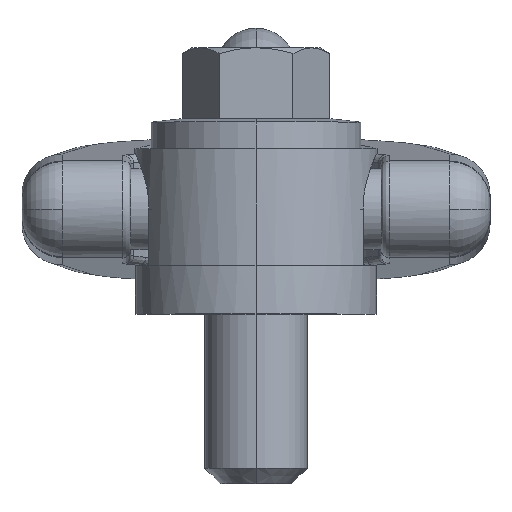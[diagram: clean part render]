
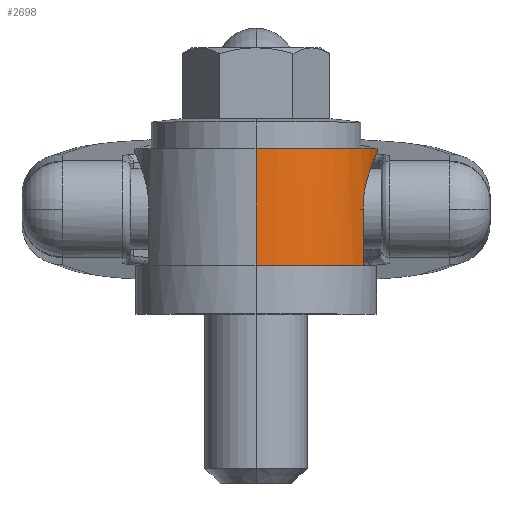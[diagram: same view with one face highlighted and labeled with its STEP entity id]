
A CAD part, top view. The second image highlights one B-rep face of the part: STEP entity #2698.
In plain terms, the highlighted cylindrical face has radius 15 mm (diameter 30 mm), a partial arc.
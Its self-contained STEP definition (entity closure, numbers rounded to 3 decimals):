
#2694 = ORIENTED_EDGE ( 'NONE', *, *, #2695, .F. ) ;
#2695 = EDGE_CURVE ( 'NONE', #2710, #2696, #4830, .T. ) ;
#2696 = VERTEX_POINT ( 'NONE', #4826 ) ;
#2697 = EDGE_LOOP ( 'NONE', ( #2694, #5514, #2759, #2734, #2722, #2728, #2720, #2719 ) ) ;
#2698 = ADVANCED_FACE ( 'NONE', ( #4825 ), #4824, .T. ) ;
#2710 = VERTEX_POINT ( 'NONE', #4859 ) ;
#2719 = ORIENTED_EDGE ( 'NONE', *, *, #2752, .F. ) ;
#2720 = ORIENTED_EDGE ( 'NONE', *, *, #2761, .F. ) ;
#2721 = VERTEX_POINT ( 'NONE', #4852 ) ;
#2722 = ORIENTED_EDGE ( 'NONE', *, *, #2730, .T. ) ;
#2723 = EDGE_CURVE ( 'NONE', #2721, #2727, #4851, .T. ) ;
#2724 = VERTEX_POINT ( 'NONE', #4847 ) ;
#2726 = VERTEX_POINT ( 'NONE', #4841 ) ;
#2727 = VERTEX_POINT ( 'NONE', #4840 ) ;
#2728 = ORIENTED_EDGE ( 'NONE', *, *, #2723, .T. ) ;
#2730 = EDGE_CURVE ( 'NONE', #2726, #2721, #4839, .T. ) ;
#2734 = ORIENTED_EDGE ( 'NONE', *, *, #2736, .T. ) ;
#2736 = EDGE_CURVE ( 'NONE', #2737, #2726, #4943, .T. ) ;
#2737 = VERTEX_POINT ( 'NONE', #4939 ) ;
#2749 = VERTEX_POINT ( 'NONE', #4933 ) ;
#2751 = EDGE_CURVE ( 'NONE', #2710, #2749, #4931, .T. ) ;
#2752 = EDGE_CURVE ( 'NONE', #2696, #2724, #4927, .T. ) ;
#2755 = EDGE_CURVE ( 'NONE', #2737, #2749, #4967, .T. ) ;
#2759 = ORIENTED_EDGE ( 'NONE', *, *, #2755, .F. ) ;
#2761 = EDGE_CURVE ( 'NONE', #2724, #2727, #4952, .T. ) ;
#4820 = DIRECTION ( 'NONE',  ( 0., 0., -1. ) ) ;
#4821 = DIRECTION ( 'NONE',  ( 0., -1., 0. ) ) ;
#4822 = CARTESIAN_POINT ( 'NONE',  ( 0., 33., 0. ) ) ;
#4823 = AXIS2_PLACEMENT_3D ( 'NONE', #4822, #4821, #4820 ) ;
#4824 = CYLINDRICAL_SURFACE ( 'NONE', #4823, 15. ) ;
#4825 = FACE_OUTER_BOUND ( 'NONE', #2697, .T. ) ;
#4826 = CARTESIAN_POINT ( 'NONE',  ( 0., 20.5, -15. ) ) ;
#4827 = DIRECTION ( 'NONE',  ( 0., 0., 1. ) ) ;
#4828 = DIRECTION ( 'NONE',  ( 0., 1., 0. ) ) ;
#4829 = AXIS2_PLACEMENT_3D ( 'NONE', #4836, #4828, #4827 ) ;
#4830 = CIRCLE ( 'NONE', #4829, 15. ) ;
#4836 = CARTESIAN_POINT ( 'NONE',  ( 0., 20.5, 0. ) ) ;
#4839 = B_SPLINE_CURVE_WITH_KNOTS ( 'NONE', 3,
 ( #4913, #4912, #4911, #4910, #4909, #4908, #4907, #4906, #4905, #4904, #4903, #4902, #4901, #4900, #4899, #4898, #4897, #4896, #4895, #4894, #4893, #4892, #4891, #4890, #4889, #4888, #4887, #4886, #4885, #4884, #4883, #4882, #4881, #4880, #4879, #4878, #4877, #4876, #4875, #4874, #4873, #4872, #4871, #4870, #4869, #4868 ),
 .UNSPECIFIED., .F., .F.,
 ( 4, 2, 2, 2, 2, 2, 2, 2, 2, 2, 2, 2, 2, 2, 2, 2, 2, 2, 2, 2, 2, 2, 4 ),
 ( 0., 0.001, 0.003, 0.004, 0.005, 0.006, 0.006, 0.007, 0.008, 0.009, 0.01, 0.011, 0.012, 0.012, 0.013, 0.014, 0.015, 0.017, 0.018, 0.019, 0.019, 0.021, 0.022 ),
 .UNSPECIFIED. ) ;
#4840 = CARTESIAN_POINT ( 'NONE',  ( 13.266, 6., -7. ) ) ;
#4841 = CARTESIAN_POINT ( 'NONE',  ( 13.266, 13., 7. ) ) ;
#4847 = CARTESIAN_POINT ( 'NONE',  ( 0., 6., -15. ) ) ;
#4848 = DIRECTION ( 'NONE',  ( 0., -1., 0. ) ) ;
#4849 = VECTOR ( 'NONE', #4848, 1000. ) ;
#4850 = CARTESIAN_POINT ( 'NONE',  ( 13.266, 33., -7. ) ) ;
#4851 = LINE ( 'NONE', #4850, #4849 ) ;
#4852 = CARTESIAN_POINT ( 'NONE',  ( 13.266, 13., -7. ) ) ;
#4859 = CARTESIAN_POINT ( 'NONE',  ( 0., 20.5, 15. ) ) ;
#4868 = CARTESIAN_POINT ( 'NONE',  ( 13.266, 13., -7. ) ) ;
#4869 = CARTESIAN_POINT ( 'NONE',  ( 13.266, 13.47, -7. ) ) ;
#4870 = CARTESIAN_POINT ( 'NONE',  ( 13.292, 13.934, -6.953 ) ) ;
#4871 = CARTESIAN_POINT ( 'NONE',  ( 13.387, 14.849, -6.767 ) ) ;
#4872 = CARTESIAN_POINT ( 'NONE',  ( 13.456, 15.288, -6.631 ) ) ;
#4873 = CARTESIAN_POINT ( 'NONE',  ( 13.582, 15.916, -6.368 ) ) ;
#4874 = CARTESIAN_POINT ( 'NONE',  ( 13.627, 16.121, -6.27 ) ) ;
#4875 = CARTESIAN_POINT ( 'NONE',  ( 13.724, 16.521, -6.054 ) ) ;
#4876 = CARTESIAN_POINT ( 'NONE',  ( 13.776, 16.717, -5.936 ) ) ;
#4877 = CARTESIAN_POINT ( 'NONE',  ( 13.936, 17.283, -5.555 ) ) ;
#4878 = CARTESIAN_POINT ( 'NONE',  ( 14.048, 17.63, -5.269 ) ) ;
#4879 = CARTESIAN_POINT ( 'NONE',  ( 14.271, 18.267, -4.632 ) ) ;
#4880 = CARTESIAN_POINT ( 'NONE',  ( 14.382, 18.559, -4.278 ) ) ;
#4881 = CARTESIAN_POINT ( 'NONE',  ( 14.585, 19.065, -3.525 ) ) ;
#4882 = CARTESIAN_POINT ( 'NONE',  ( 14.677, 19.281, -3.125 ) ) ;
#4883 = CARTESIAN_POINT ( 'NONE',  ( 14.794, 19.548, -2.486 ) ) ;
#4884 = CARTESIAN_POINT ( 'NONE',  ( 14.829, 19.627, -2.268 ) ) ;
#4885 = CARTESIAN_POINT ( 'NONE',  ( 14.89, 19.761, -1.827 ) ) ;
#4886 = CARTESIAN_POINT ( 'NONE',  ( 14.916, 19.818, -1.604 ) ) ;
#4887 = CARTESIAN_POINT ( 'NONE',  ( 14.957, 19.909, -1.151 ) ) ;
#4888 = CARTESIAN_POINT ( 'NONE',  ( 14.973, 19.943, -0.922 ) ) ;
#4889 = CARTESIAN_POINT ( 'NONE',  ( 14.995, 19.989, -0.458 ) ) ;
#4890 = CARTESIAN_POINT ( 'NONE',  ( 15., 20., -0.222 ) ) ;
#4891 = CARTESIAN_POINT ( 'NONE',  ( 15., 19.999, 0.475 ) ) ;
#4892 = CARTESIAN_POINT ( 'NONE',  ( 14.978, 19.953, 0.934 ) ) ;
#4893 = CARTESIAN_POINT ( 'NONE',  ( 14.915, 19.815, 1.614 ) ) ;
#4894 = CARTESIAN_POINT ( 'NONE',  ( 14.888, 19.758, 1.841 ) ) ;
#4895 = CARTESIAN_POINT ( 'NONE',  ( 14.827, 19.621, 2.283 ) ) ;
#4896 = CARTESIAN_POINT ( 'NONE',  ( 14.792, 19.543, 2.499 ) ) ;
#4897 = CARTESIAN_POINT ( 'NONE',  ( 14.676, 19.278, 3.129 ) ) ;
#4898 = CARTESIAN_POINT ( 'NONE',  ( 14.585, 19.063, 3.528 ) ) ;
#4899 = CARTESIAN_POINT ( 'NONE',  ( 14.432, 18.682, 4.095 ) ) ;
#4900 = CARTESIAN_POINT ( 'NONE',  ( 14.378, 18.545, 4.278 ) ) ;
#4901 = CARTESIAN_POINT ( 'NONE',  ( 14.27, 18.257, 4.627 ) ) ;
#4902 = CARTESIAN_POINT ( 'NONE',  ( 14.214, 18.106, 4.794 ) ) ;
#4903 = CARTESIAN_POINT ( 'NONE',  ( 14.103, 17.788, 5.112 ) ) ;
#4904 = CARTESIAN_POINT ( 'NONE',  ( 14.047, 17.621, 5.263 ) ) ;
#4905 = CARTESIAN_POINT ( 'NONE',  ( 13.936, 17.272, 5.55 ) ) ;
#4906 = CARTESIAN_POINT ( 'NONE',  ( 13.881, 17.089, 5.686 ) ) ;
#4907 = CARTESIAN_POINT ( 'NONE',  ( 13.721, 16.523, 6.066 ) ) ;
#4908 = CARTESIAN_POINT ( 'NONE',  ( 13.623, 16.124, 6.281 ) ) ;
#4909 = CARTESIAN_POINT ( 'NONE',  ( 13.455, 15.28, 6.634 ) ) ;
#4910 = CARTESIAN_POINT ( 'NONE',  ( 13.385, 14.833, 6.771 ) ) ;
#4911 = CARTESIAN_POINT ( 'NONE',  ( 13.291, 13.93, 6.953 ) ) ;
#4912 = CARTESIAN_POINT ( 'NONE',  ( 13.266, 13.47, 7. ) ) ;
#4913 = CARTESIAN_POINT ( 'NONE',  ( 13.266, 13., 7. ) ) ;
#4924 = DIRECTION ( 'NONE',  ( 0., -1., 0. ) ) ;
#4925 = VECTOR ( 'NONE', #4924, 1000. ) ;
#4926 = CARTESIAN_POINT ( 'NONE',  ( 0., 33., -15. ) ) ;
#4927 = LINE ( 'NONE', #4926, #4925 ) ;
#4928 = DIRECTION ( 'NONE',  ( 0., -1., 0. ) ) ;
#4929 = VECTOR ( 'NONE', #4928, 1000. ) ;
#4930 = CARTESIAN_POINT ( 'NONE',  ( 0., 33., 15. ) ) ;
#4931 = LINE ( 'NONE', #4930, #4929 ) ;
#4933 = CARTESIAN_POINT ( 'NONE',  ( 0., 6., 15. ) ) ;
#4939 = CARTESIAN_POINT ( 'NONE',  ( 13.266, 6., 7. ) ) ;
#4940 = DIRECTION ( 'NONE',  ( 0., 1., 0. ) ) ;
#4941 = VECTOR ( 'NONE', #4940, 1000. ) ;
#4942 = CARTESIAN_POINT ( 'NONE',  ( 13.266, 33., 7. ) ) ;
#4943 = LINE ( 'NONE', #4942, #4941 ) ;
#4948 = DIRECTION ( 'NONE',  ( 0., 0., -1. ) ) ;
#4949 = DIRECTION ( 'NONE',  ( 0., -1., 0. ) ) ;
#4950 = CARTESIAN_POINT ( 'NONE',  ( 0., 6., 0. ) ) ;
#4951 = AXIS2_PLACEMENT_3D ( 'NONE', #4950, #4949, #4948 ) ;
#4952 = CIRCLE ( 'NONE', #4951, 15. ) ;
#4963 = DIRECTION ( 'NONE',  ( 0., 0., -1. ) ) ;
#4964 = DIRECTION ( 'NONE',  ( 0., -1., 0. ) ) ;
#4965 = CARTESIAN_POINT ( 'NONE',  ( 0., 6., 0. ) ) ;
#4966 = AXIS2_PLACEMENT_3D ( 'NONE', #4965, #4964, #4963 ) ;
#4967 = CIRCLE ( 'NONE', #4966, 15. ) ;
#5514 = ORIENTED_EDGE ( 'NONE', *, *, #2751, .T. ) ;
